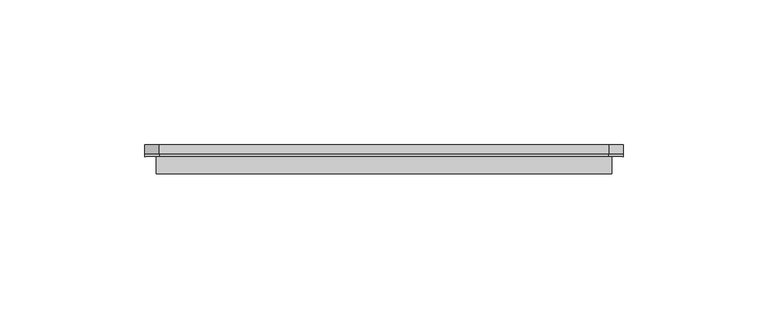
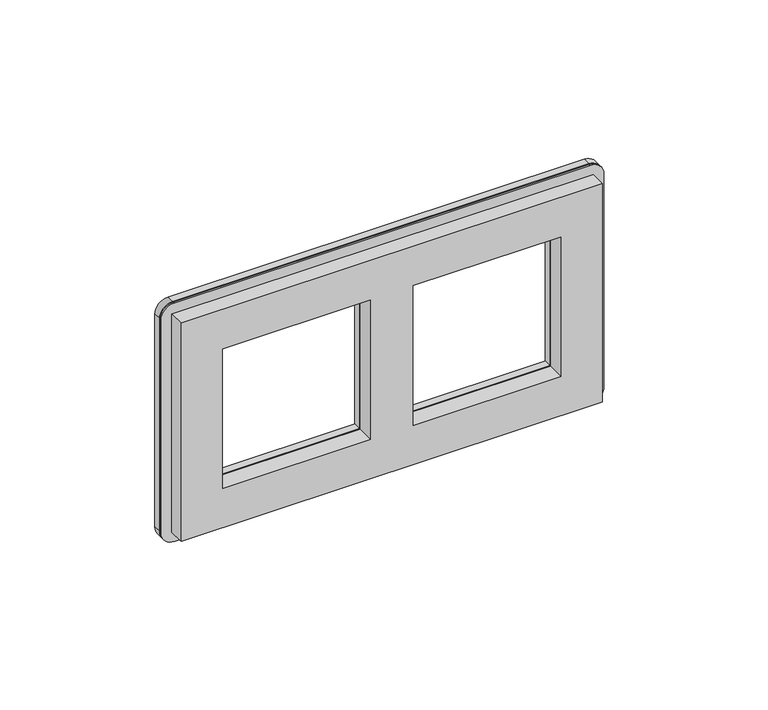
"""IFC4 building model written with IfcOpenShell, lengths in millimetres: proxy geometry, IEK_Brite_Рамка : x2_РУ-2-1-Бр металл алюм. RE."""

import ifcopenshell
import ifcopenshell.guid

model = None  # the IFC model being written
_history = None  # IfcOwnerHistory: only IFC2X3 demands one
_inside = {}  # id of a spatial element -> (the spatial element, [elements in it])
_under = {}  # id of a project, library or spatial element -> (it, [spatial elements below it])
_declared = {}  # id of a project -> (the project, [libraries it declares])
_typed = {}  # id of a type object -> (the type object, [elements of that type])
_made_of = {}  # id of a material, layer set ... -> (it, [elements and type objects made of it])


def new_model(schema):
    """Start an empty IFC model of exactly this schema.

    Asked for "IFC4X3", IfcOpenShell would pick the latest addendum, in which some entities
    have other attributes; the version numbers below select the first issue.
    IFC2X3 requires an IfcOwnerHistory on every rooted entity: one is made here for all.
    """
    global model, _history
    if schema == "IFC4X3":
        model = ifcopenshell.file(schema_version=(4, 3, 0, 0))
    else:
        model = ifcopenshell.file(schema=schema)
    _inside.clear()
    _under.clear()
    _declared.clear()
    _typed.clear()
    _made_of.clear()
    _history = None
    if model.schema == "IFC2X3":
        org = make("IfcOrganization", Name="unknown")
        user = make(
            "IfcPersonAndOrganization",
            ThePerson=make("IfcPerson", FamilyName="unknown"),
            TheOrganization=org,
        )
        app = make(
            "IfcApplication",
            ApplicationDeveloper=org,
            Version="unknown",
            ApplicationFullName="unknown",
            ApplicationIdentifier="unknown",
        )
        _history = make(
            "IfcOwnerHistory",
            OwningUser=user,
            OwningApplication=app,
            ChangeAction="ADDED",
            CreationDate=0,
        )
    return model


def make(cls, **values):
    """One entity of the class cls with the attributes given. An attribute that is None is left unset."""
    return model.create_entity(
        cls, **{name: value for name, value in values.items() if value is not None}
    )


def rooted(cls, **values):
    """An entity with a GlobalId (a new one), such as an element, a storey or a relation."""
    return make(cls, GlobalId=ifcopenshell.guid.new(), OwnerHistory=_history, **values)


def si_unit(unit_type, name, prefix=None):
    """IfcSIUnit, for example si_unit("LENGTHUNIT", "METRE", prefix="MILLI")."""
    return make("IfcSIUnit", UnitType=unit_type, Prefix=prefix, Name=name)


def assignment(units):
    """IfcUnitAssignment: the units of a project."""
    return None if units is None else make("IfcUnitAssignment", Units=units)


def point(xyz):
    """IfcCartesianPoint."""
    return None if xyz is None else make("IfcCartesianPoint", Coordinates=xyz)


def direction(xyz):
    """IfcDirection."""
    return None if xyz is None else make("IfcDirection", DirectionRatios=xyz)


def frame(location, z_axis=None, x_axis=None):
    """IfcAxis2Placement3D, a coordinate frame: its origin and axes. An axis left out is left unset."""
    return make(
        "IfcAxis2Placement3D",
        Location=point(location),
        Axis=direction(z_axis),
        RefDirection=direction(x_axis),
    )


def frame_2d(location, x_axis=None):
    """IfcAxis2Placement2D, a coordinate frame in the plane: its origin and x axis."""
    return make(
        "IfcAxis2Placement2D", Location=point(location), RefDirection=direction(x_axis)
    )


def origin():
    """The frame at (0, 0, 0) with its axes left unset."""
    return frame((0.0, 0.0, 0.0))


def place(relative_to, where):
    """IfcLocalPlacement: puts the frame where relative to a parent placement (None: the world)."""
    return make(
        "IfcLocalPlacement", PlacementRelTo=relative_to, RelativePlacement=where
    )


def context(
    kind, dimensions, precision=None, world=None, true_north=None, identifier=None
):
    """IfcGeometricRepresentationContext, for example the 3D "Model" context."""
    return make(
        "IfcGeometricRepresentationContext",
        ContextIdentifier=identifier,
        ContextType=kind,
        CoordinateSpaceDimension=dimensions,
        Precision=precision,
        WorldCoordinateSystem=world,
        TrueNorth=true_north,
    )


def project(units=None, contexts=None):
    """IfcProject with its units and contexts."""
    return rooted(
        "IfcProject",
        Name="project",
        RepresentationContexts=contexts,
        UnitsInContext=assignment(units),
    )


def spatial(cls, under=None, at=None, **own):
    """A site, building, storey or space (cls), placed at a placement, below another one or the project."""
    s = rooted(cls, ObjectPlacement=at, **own)
    if under is not None:
        _under.setdefault(under.id(), (under, []))[1].append(s)
    return s


def polyline(points):
    """IfcPolyline through the points."""
    return make("IfcPolyline", Points=[point(p) for p in points])


def circle_curve(where, radius):
    """IfcCircle in the frame where."""
    return make("IfcCircle", Position=where, Radius=radius)


def trimmed(basis, trim1, trim2, sense, master):
    """IfcTrimmedCurve: the piece of a basis curve between two trims."""
    return make(
        "IfcTrimmedCurve",
        BasisCurve=basis,
        Trim1=trim1,
        Trim2=trim2,
        SenseAgreement=sense,
        MasterRepresentation=master,
    )


def segment(curve, same_sense, transition):
    """IfcCompositeCurveSegment."""
    return make(
        "IfcCompositeCurveSegment",
        Transition=transition,
        SameSense=same_sense,
        ParentCurve=curve,
    )


def composite_curve(segments, self_intersect=None):
    """IfcCompositeCurve: segments joined end to end."""
    return make("IfcCompositeCurve", Segments=segments, SelfIntersect=self_intersect)


def outline(outer, holes=None, kind="AREA"):
    """IfcArbitraryClosedProfileDef: a profile drawn as a closed curve; with holes, ...WithVoids."""
    if holes is None:
        return make("IfcArbitraryClosedProfileDef", ProfileType=kind, OuterCurve=outer)
    return make(
        "IfcArbitraryProfileDefWithVoids",
        ProfileType=kind,
        OuterCurve=outer,
        InnerCurves=holes,
    )


def extrude(swept, where, along, depth):
    """IfcExtrudedAreaSolid: the profile swept, set in the frame where, extruded along a direction by depth."""
    return make(
        "IfcExtrudedAreaSolid",
        SweptArea=swept,
        Position=where,
        ExtrudedDirection=direction(along),
        Depth=depth,
    )


def shape(context_of_items, identifier, shape_type, items):
    """IfcShapeRepresentation: the items that make up one representation, for example the "Body"."""
    return make(
        "IfcShapeRepresentation",
        ContextOfItems=context_of_items,
        RepresentationIdentifier=identifier,
        RepresentationType=shape_type,
        Items=items,
    )


def source(mapping_origin, context_of_items, identifier, shape_type, items):
    """IfcRepresentationMap: a shape defined once, which mapped items show again and again."""
    return make(
        "IfcRepresentationMap",
        MappingOrigin=mapping_origin,
        MappedRepresentation=shape(context_of_items, identifier, shape_type, items),
    )


def transform(
    local_origin,
    x_axis=None,
    y_axis=None,
    z_axis=None,
    scale=None,
    scale2=None,
    scale3=None,
    uniform=True,
):
    """IfcCartesianTransformationOperator3D, or its non-uniform kind. x_axis, y_axis, z_axis: its Axis1, 2, 3."""
    if uniform:
        return make(
            "IfcCartesianTransformationOperator3D",
            Axis1=direction(x_axis),
            Axis2=direction(y_axis),
            LocalOrigin=point(local_origin),
            Scale=scale,
            Axis3=direction(z_axis),
        )
    return make(
        "IfcCartesianTransformationOperator3DnonUniform",
        Axis1=direction(x_axis),
        Axis2=direction(y_axis),
        LocalOrigin=point(local_origin),
        Scale=scale,
        Axis3=direction(z_axis),
        Scale2=scale2,
        Scale3=scale3,
    )


def mapped(mapping_source, mapping_target):
    """IfcMappedItem: shows the shape of a source again, moved by a transform."""
    return make(
        "IfcMappedItem", MappingSource=mapping_source, MappingTarget=mapping_target
    )


def made_of(thing, what):
    """Note that an element or type object is made of a material, layer set ...; save() writes the relation."""
    if what is not None:
        _made_of.setdefault(what.id(), (what, []))[1].append(thing)
    return thing


def element(
    cls,
    number,
    at=None,
    inside=None,
    cuts=None,
    type_object=None,
    material=None,
    context=None,
    identifier="Body",
    shape_type=None,
    held_by="IfcProductDefinitionShape",
    body=None,
    shapes=None,
    **own,
):
    """One element of the class cls, such as IfcWall. Its Tag is "e" and its number.

    at: its placement. inside: the storey or other place that contains it. cuts: it is an
    opening in that element (IfcRelVoidsElement). A single representation is given by context,
    identifier, shape_type and body (its items); several are given by shapes. held_by: the class
    of the entity that holds the representations. save() writes the other relations.
    """
    e = rooted(cls, Tag="e%d" % number, ObjectPlacement=at, **own)
    if body is not None:
        shapes = [shape(context, identifier, shape_type, body)]
    if shapes is not None:
        e.Representation = make(held_by, Representations=shapes)
    if inside is not None:
        _inside.setdefault(inside.id(), (inside, []))[1].append(e)
    if cuts is not None:
        rooted(
            "IfcRelVoidsElement", RelatingBuildingElement=cuts, RelatedOpeningElement=e
        )
    if type_object is not None:
        _typed.setdefault(type_object.id(), (type_object, []))[1].append(e)
    return made_of(e, material)


def aggregate(whole, parts):
    """IfcRelAggregates: a whole, such as a stair, and the parts it consists of."""
    return rooted("IfcRelAggregates", RelatingObject=whole, RelatedObjects=parts)


def save(model, path):
    """Write the relations noted so far, then the file.

    IfcRelAggregates (storeys below a building ...), IfcRelContainedInSpatialStructure (elements
    in a storey), IfcRelDefinesByType, IfcRelAssociatesMaterial and IfcRelDeclares: one each for
    every whole, place, type object, material and project.
    """
    for whole, parts in _under.values():
        aggregate(whole, parts)
    for where, things in _inside.values():
        rooted(
            "IfcRelContainedInSpatialStructure",
            RelatedElements=things,
            RelatingStructure=where,
        )
    for kind, things in _typed.values():
        rooted("IfcRelDefinesByType", RelatedObjects=things, RelatingType=kind)
    for what, things in _made_of.values():
        rooted("IfcRelAssociatesMaterial", RelatedObjects=things, RelatingMaterial=what)
    for by, libraries in _declared.values():
        rooted("IfcRelDeclares", RelatingContext=by, RelatedDefinitions=libraries)
    model.write(path)


def plane_surface(at):
    """IfcPlane: the flat surface through the origin of the frame at, square to its z axis."""
    return make("IfcPlane", Position=at)


def cylinder_surface(at, radius):
    """IfcCylindricalSurface: all points at the distance radius from the z axis of the frame at."""
    return make("IfcCylindricalSurface", Position=at, Radius=radius)


def advanced_brep(points, edges, surfaces, faces):
    """IfcAdvancedBrep: a solid bounded by faces that lie on surfaces and meet in shared edges.

    An edge is (start, end): straight between two places in points (the first is 0);
    or (start, end, curve); or (start, end, curve, False) where it runs against its curve.
    A face is (place in surfaces, loops), or (place, loops, False) where it looks against
    its surface's normal. A loop lists edges by number (the first is 1), with a minus sign
    where the edge is run from its end to its start. The first loop is the outer one.
    """
    corners = [point(p) for p in points]
    vertices = [make("IfcVertexPoint", VertexGeometry=c) for c in corners]
    made = []
    for start, end, *more in edges:
        made.append(
            make(
                "IfcEdgeCurve",
                EdgeStart=vertices[start],
                EdgeEnd=vertices[end],
                EdgeGeometry=more[0] if more else make("IfcPolyline", Points=[corners[start], corners[end]]),
                SameSense=more[1] if len(more) > 1 else True,
            )
        )
    hull = []
    for where, loops, *sense in faces:
        bounds = []
        for j, loop in enumerate(loops):
            ring = [make("IfcOrientedEdge", EdgeElement=made[abs(k) - 1], Orientation=k > 0) for k in loop]
            bounds.append(
                make(
                    "IfcFaceOuterBound" if j == 0 else "IfcFaceBound",
                    Bound=make("IfcEdgeLoop", EdgeList=ring),
                    Orientation=True,
                )
            )
        hull.append(make("IfcAdvancedFace", Bounds=bounds, FaceSurface=surfaces[where], SameSense=sense[0] if sense else True))
    return make("IfcAdvancedBrep", Outer=make("IfcClosedShell", CfsFaces=hull))


def electrical_fixtures_aad822a1(model_context):
    return source(origin(), model_context, "Body", "SolidModel", [
        extrude(outline(composite_curve([segment(trimmed(circle_curve(frame_2d((42.0, -113.0)), 5.0), [point((47.0, -113.0))], [point((42.0, -118.0))], False, "CARTESIAN"), True, "CONTINUOUS"), segment(polyline([(42.0, -118.0), (-42.0, -118.0)]), True, "CONTINUOUS"), segment(trimmed(circle_curve(frame_2d((-42.0, -113.0)), 5.0), [point((-42.0, -118.0))], [point((-47.0, -113.0))], False, "CARTESIAN"), True, "CONTINUOUS"), segment(polyline([(-47.0, -113.0), (-47.0, 42.0)]), True, "CONTINUOUS"), segment(trimmed(circle_curve(frame_2d((-42.0, 42.0)), 5.0), [point((-47.0, 42.0))], [point((-42.0, 47.0))], False, "CARTESIAN"), True, "CONTINUOUS"), segment(polyline([(-42.0, 47.0), (42.0, 47.0)]), True, "CONTINUOUS"), segment(trimmed(circle_curve(frame_2d((42.0, 42.0)), 5.0), [point((42.0, 47.0))], [point((47.0, 42.0))], False, "CARTESIAN"), True, "CONTINUOUS"), segment(polyline([(47.0, 42.0), (47.0, -113.0)]), True, "CONTINUOUS")], self_intersect=False), holes=[polyline([(-27.5, -98.5), (27.5, -98.5), (27.5, -43.5), (-27.5, -43.5), (-27.5, -98.5)]), polyline([(-27.5, -27.5), (27.5, -27.5), (27.5, 27.5), (-27.5, 27.5), (-27.5, -27.5)])]), frame((0.0, 7.0, 0.0), z_axis=(0.0, 1.0, 0.0), x_axis=(0.0, 0.0, 1.0)), (0.0, 0.0, 1.0), 3.0),
        advanced_brep(
        [(-113.0, 7.0, 47.0), (42.0, 7.0, 47.0), (47.0, 7.0, 42.0), (47.0, 7.0, -42.0), (42.0, 7.0, -47.0), (-113.0, 7.0, -47.0), (-118.0, 7.0, -42.0), (-118.0, 7.0, 42.0), (-98.5, 7.0, 27.5), (-98.5, 7.0, -27.5), (-43.5, 7.0, -27.5), (-43.5, 7.0, 27.5), (-27.5, 7.0, 27.5), (-27.5, 7.0, -27.5), (27.5, 7.0, -27.5), (27.5, 7.0, 27.5), (-114.0, 0.0, 43.0), (-114.0, 0.0, -43.0), (43.0, 0.0, -43.0), (43.0, 0.0, 43.0), (-98.5, 0.0, -27.5), (-98.5, 0.0, 27.5), (-43.5, 0.0, 27.5), (-43.5, 0.0, -27.5), (-27.5, 0.0, -27.5), (-27.5, 0.0, 27.5), (27.5, 0.0, 27.5), (27.5, 0.0, -27.5), (-114.0, 6.0, 43.0), (-114.0, 6.0, -43.0), (43.0, 6.0, -43.0), (43.0, 6.0, 43.0), (-113.0, 6.0, 47.0), (-118.0, 6.0, 42.0), (-118.0, 6.0, -42.0), (-113.0, 6.0, -47.0), (42.0, 6.0, -47.0), (47.0, 6.0, -42.0), (47.0, 6.0, 42.0), (42.0, 6.0, 47.0)],
        [
            (0, 1),
            (1, 2, circle_curve(frame((42.0, 7.0, 42.0), z_axis=(0.0, 1.0, 0.0), x_axis=(1.0, 0.0, 0.0)), 5.0)),
            (2, 3),
            (3, 4, circle_curve(frame((42.0, 7.0, -42.0), z_axis=(0.0, 1.0, 0.0), x_axis=(1.0, 0.0, 0.0)), 5.0)),
            (4, 5),
            (5, 6, circle_curve(frame((-113.0, 7.0, -42.0), z_axis=(0.0, 1.0, 0.0), x_axis=(1.0, 0.0, 0.0)), 5.0)),
            (6, 7),
            (7, 0, circle_curve(frame((-113.0, 7.0, 42.0), z_axis=(0.0, 1.0, 0.0), x_axis=(1.0, 0.0, 0.0)), 5.0)),
            (8, 9),
            (9, 10),
            (10, 11),
            (11, 8),
            (12, 13),
            (13, 14),
            (14, 15),
            (15, 12),
            (16, 17),
            (17, 18),
            (18, 19),
            (19, 16),
            (20, 21),
            (21, 22),
            (22, 23),
            (23, 20),
            (24, 25),
            (25, 26),
            (26, 27),
            (27, 24),
            (16, 28),
            (28, 29),
            (29, 17),
            (29, 30),
            (30, 18),
            (30, 31),
            (31, 19),
            (31, 28),
            (32, 33, circle_curve(frame((-113.0, 6.0, 42.0), z_axis=(0.0, -1.0, 0.0), x_axis=(1.0, 0.0, 0.0)), 5.0)),
            (33, 34),
            (34, 35, circle_curve(frame((-113.0, 6.0, -42.0), z_axis=(0.0, -1.0, 0.0), x_axis=(1.0, 0.0, 0.0)), 5.0)),
            (35, 36),
            (36, 37, circle_curve(frame((42.0, 6.0, -42.0), z_axis=(0.0, -1.0, 0.0), x_axis=(1.0, 0.0, 0.0)), 5.0)),
            (37, 38),
            (38, 39, circle_curve(frame((42.0, 6.0, 42.0), z_axis=(0.0, -1.0, 0.0), x_axis=(1.0, 0.0, 0.0)), 5.0)),
            (39, 32),
            (8, 21),
            (20, 9),
            (23, 10),
            (22, 11),
            (32, 0),
            (7, 33),
            (6, 34),
            (5, 35),
            (4, 36),
            (3, 37),
            (2, 38),
            (1, 39),
            (12, 25),
            (24, 13),
            (27, 14),
            (26, 15),
        ],
        [
            plane_surface(frame((-114.0, 7.0, 43.0), z_axis=(0.0, 1.0, 0.0), x_axis=(0.0, 0.0, 1.0))),
            plane_surface(frame((-114.0, 0.0, 43.0), z_axis=(0.0, -1.0, 0.0), x_axis=(0.0, 0.0, -1.0))),
            plane_surface(frame((-114.0, 0.0, 43.0), z_axis=(-1.0, 0.0, 0.0), x_axis=(0.0, 1.0, 0.0))),
            plane_surface(frame((-114.0, 0.0, -43.0), z_axis=(0.0, 0.0, -1.0), x_axis=(0.0, 1.0, 0.0))),
            plane_surface(frame((43.0, 0.0, -43.0), z_axis=(1.0, 0.0, 0.0), x_axis=(0.0, 1.0, 0.0))),
            plane_surface(frame((43.0, 0.0, 43.0), z_axis=(0.0, 0.0, 1.0), x_axis=(0.0, 1.0, 0.0))),
            plane_surface(frame((-108.0, 6.0, 42.0), z_axis=(0.0, -1.0, 0.0), x_axis=(0.0, 0.0, 1.0))),
            plane_surface(frame((-98.5, 0.0, 27.5), z_axis=(1.0, 0.0, 0.0), x_axis=(0.0, 1.0, 0.0))),
            plane_surface(frame((-98.5, 0.0, -27.5), z_axis=(0.0, 0.0, 1.0), x_axis=(0.0, 1.0, 0.0))),
            plane_surface(frame((-43.5, 0.0, -27.5), z_axis=(-1.0, 0.0, 0.0), x_axis=(0.0, 1.0, 0.0))),
            plane_surface(frame((-43.5, 0.0, 27.5), z_axis=(0.0, 0.0, -1.0), x_axis=(0.0, 1.0, 0.0))),
            cylinder_surface(frame((-113.0, 7.0, 42.0), z_axis=(0.0, -1.0, 0.0), x_axis=(1.0, 0.0, 0.0)), 5.0),
            plane_surface(frame((-118.0, 6.0, 42.0), z_axis=(-1.0, 0.0, 0.0), x_axis=(0.0, 1.0, 0.0))),
            cylinder_surface(frame((-113.0, 7.0, -42.0), z_axis=(0.0, -1.0, 0.0), x_axis=(1.0, 0.0, 0.0)), 5.0),
            plane_surface(frame((-113.0, 6.0, -47.0), z_axis=(0.0, 0.0, -1.0), x_axis=(0.0, 1.0, 0.0))),
            cylinder_surface(frame((42.0, 7.0, -42.0), z_axis=(0.0, -1.0, 0.0), x_axis=(1.0, 0.0, 0.0)), 5.0),
            plane_surface(frame((47.0, 6.0, -42.0), z_axis=(1.0, 0.0, 0.0), x_axis=(0.0, 1.0, 0.0))),
            cylinder_surface(frame((42.0, 7.0, 42.0), z_axis=(0.0, -1.0, 0.0), x_axis=(1.0, 0.0, 0.0)), 5.0),
            plane_surface(frame((42.0, 6.0, 47.0), z_axis=(0.0, 0.0, 1.0), x_axis=(0.0, 1.0, 0.0))),
            plane_surface(frame((-27.5, 0.0, 27.5), z_axis=(1.0, 0.0, 0.0), x_axis=(0.0, 1.0, 0.0))),
            plane_surface(frame((-27.5, 0.0, -27.5), z_axis=(0.0, 0.0, 1.0), x_axis=(0.0, 1.0, 0.0))),
            plane_surface(frame((27.5, 0.0, -27.5), z_axis=(-1.0, 0.0, 0.0), x_axis=(0.0, 1.0, 0.0))),
            plane_surface(frame((27.5, 0.0, 27.5), z_axis=(0.0, 0.0, -1.0), x_axis=(0.0, 1.0, 0.0))),
        ],
        [
            (0, [[1, 2, 3, 4, 5, 6, 7, 8], [9, 10, 11, 12], [13, 14, 15, 16]]),
            (1, [[17, 18, 19, 20], [21, 22, 23, 24], [25, 26, 27, 28]]),
            (2, [[-17, 29, 30, 31]]),
            (3, [[-18, -31, 32, 33]]),
            (4, [[-19, -33, 34, 35]]),
            (5, [[-20, -35, 36, -29]]),
            (6, [[37, 38, 39, 40, 41, 42, 43, 44], [-30, -36, -34, -32]]),
            (7, [[45, -21, 46, -9]]),
            (8, [[-46, -24, 47, -10]]),
            (9, [[-47, -23, 48, -11]]),
            (10, [[-45, -12, -48, -22]]),
            (11, [[-37, 49, -8, 50]]),
            (12, [[-38, -50, -7, 51]]),
            (13, [[-39, -51, -6, 52]]),
            (14, [[-40, -52, -5, 53]]),
            (15, [[-41, -53, -4, 54]]),
            (16, [[-42, -54, -3, 55]]),
            (17, [[-43, -55, -2, 56]]),
            (18, [[-44, -56, -1, -49]]),
            (19, [[57, -25, 58, -13]]),
            (20, [[-58, -28, 59, -14]]),
            (21, [[-59, -27, 60, -15]]),
            (22, [[-57, -16, -60, -26]]),
        ],
    ),
    ])


if __name__ == "__main__":
    model = new_model("IFC4")
    model_context = context("Model", 3, world=origin())
    ifc_project = project(units=[si_unit("LENGTHUNIT", "METRE", prefix="MILLI")], contexts=[model_context])
    site = spatial("IfcSite", under=ifc_project)
    building = spatial("IfcBuilding", under=site)
    placement = place(None, origin())
    electrical_fixtures_shape = electrical_fixtures_aad822a1(model_context)
    element("IfcBuildingElementProxy", 1, Name="IEK_Brite_Рамка : x2_РУ-2-1-Бр металл алюм. RE", ObjectType="IEK_Brite_Рамка : x2_РУ-2-1-Бр металл алюм. RE", at=placement, inside=building, context=model_context, shape_type="MappedRepresentation", body=[
        mapped(electrical_fixtures_shape, transform((0.0, 0.0, 0.0), x_axis=(1.0, 0.0, 0.0), y_axis=(0.0, 1.0, 0.0), z_axis=(0.0, 0.0, 1.0))),
    ])
    save(model, "model.ifc")
